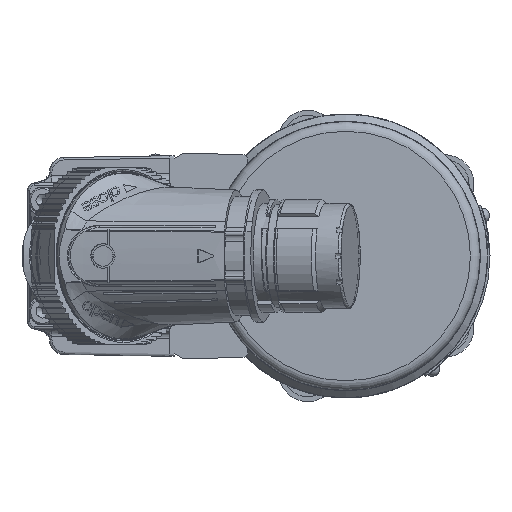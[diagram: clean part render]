
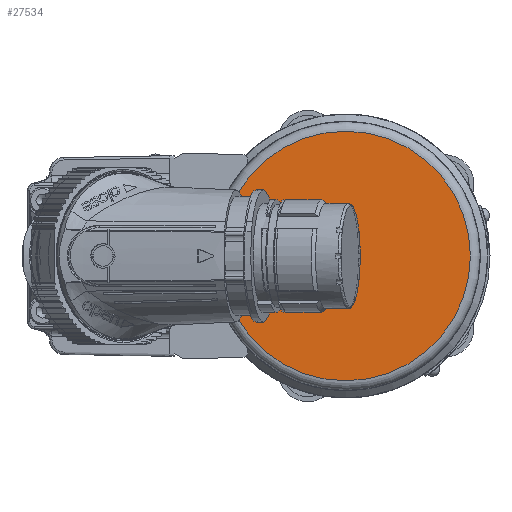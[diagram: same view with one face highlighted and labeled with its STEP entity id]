
A CAD part, left-side view. The second image highlights one B-rep face of the part: STEP entity #27534.
In plain terms, the highlighted planar face has unit normal (-1, 0, 0).
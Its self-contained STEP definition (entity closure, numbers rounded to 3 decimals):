
#6242 = DIRECTION ( 'NONE',  ( -1., 0., 0. ) ) ;
#11792 = DIRECTION ( 'NONE',  ( 0., 0., 1. ) ) ;
#15775 = AXIS2_PLACEMENT_3D ( 'NONE', #45441, #72205, #11792 ) ;
#27534 = ADVANCED_FACE ( 'NONE', ( #36818 ), #52268, .T. ) ;
#36818 = FACE_OUTER_BOUND ( 'NONE', #61005, .T. ) ;
#45441 = CARTESIAN_POINT ( 'NONE',  ( -348.4, 0., 0. ) ) ;
#46089 = EDGE_CURVE ( 'NONE', #53665, #53665, #60698, .T. ) ;
#46649 = CARTESIAN_POINT ( 'NONE',  ( -348.4, 0., 0. ) ) ;
#52268 = PLANE ( 'NONE',  #15775 ) ;
#53468 = DIRECTION ( 'NONE',  ( 0., 0., 1. ) ) ;
#53665 = VERTEX_POINT ( 'NONE', #85960 ) ;
#59942 = AXIS2_PLACEMENT_3D ( 'NONE', #46649, #6242, #53468 ) ;
#60698 = CIRCLE ( 'NONE', #59942, 25.5 ) ;
#61005 = EDGE_LOOP ( 'NONE', ( #80121 ) ) ;
#72205 = DIRECTION ( 'NONE',  ( -1., 0., 0. ) ) ;
#80121 = ORIENTED_EDGE ( 'NONE', *, *, #46089, .T. ) ;
#85960 = CARTESIAN_POINT ( 'NONE',  ( -348.4, 0., 25.5 ) ) ;
